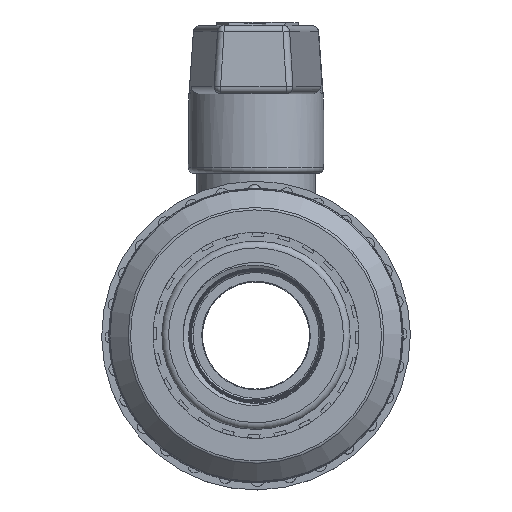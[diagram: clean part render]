
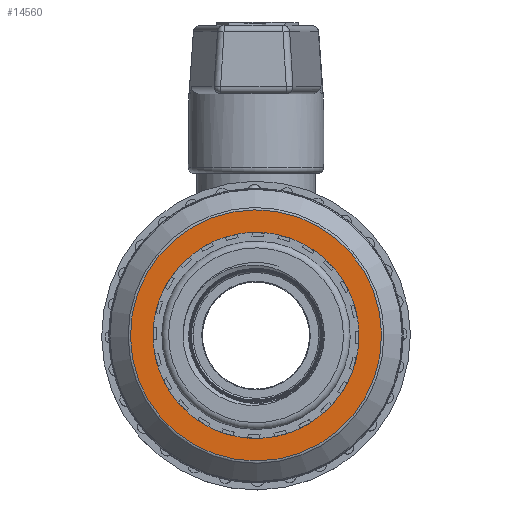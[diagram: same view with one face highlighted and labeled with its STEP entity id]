
A CAD part, top view. The second image highlights one B-rep face of the part: STEP entity #14560.
In plain terms, the highlighted planar face has unit normal (0, 0, 1).
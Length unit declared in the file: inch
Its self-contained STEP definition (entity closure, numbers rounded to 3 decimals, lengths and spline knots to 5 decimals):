
#1755=PLANE('',#15560);
#5235=VERTEX_POINT('',#67560);
#5236=VERTEX_POINT('',#67563);
#6035=CIRCLE('',#15559,2.85134);
#6036=CIRCLE('',#15561,2.3368);
#7345=EDGE_CURVE('',#5235,#5235,#6035,.T.);
#7346=EDGE_CURVE('',#5236,#5236,#6036,.T.);
#10356=ORIENTED_EDGE('',*,*,#7346,.T.);
#10357=ORIENTED_EDGE('',*,*,#7345,.F.);
#12833=EDGE_LOOP('',(#10356));
#12834=EDGE_LOOP('',(#10357));
#13735=FACE_BOUND('',#12833,.T.);
#13736=FACE_BOUND('',#12834,.T.);
#14560=ADVANCED_FACE('',(#13735,#13736),#1755,.T.);
#15559=AXIS2_PLACEMENT_3D('',#67559,#17680,#17681);
#15560=AXIS2_PLACEMENT_3D('',#67561,#17682,$);
#15561=AXIS2_PLACEMENT_3D('',#67562,#17683,#17684);
#17680=DIRECTION('',(0.,0.,-1.));
#17681=DIRECTION('',(-2.851,0.,0.));
#17682=DIRECTION('',(0.,0.,1.));
#17683=DIRECTION('',(0.,0.,-1.));
#17684=DIRECTION('',(-2.337,0.,0.));
#67559=CARTESIAN_POINT('',(0.,0.,2.9464));
#67560=CARTESIAN_POINT('',(2.85134,0.,2.9464));
#67561=CARTESIAN_POINT('',(0.,0.,2.9464));
#67562=CARTESIAN_POINT('',(0.,0.,2.9464));
#67563=CARTESIAN_POINT('',(2.3368,0.,2.9464));
